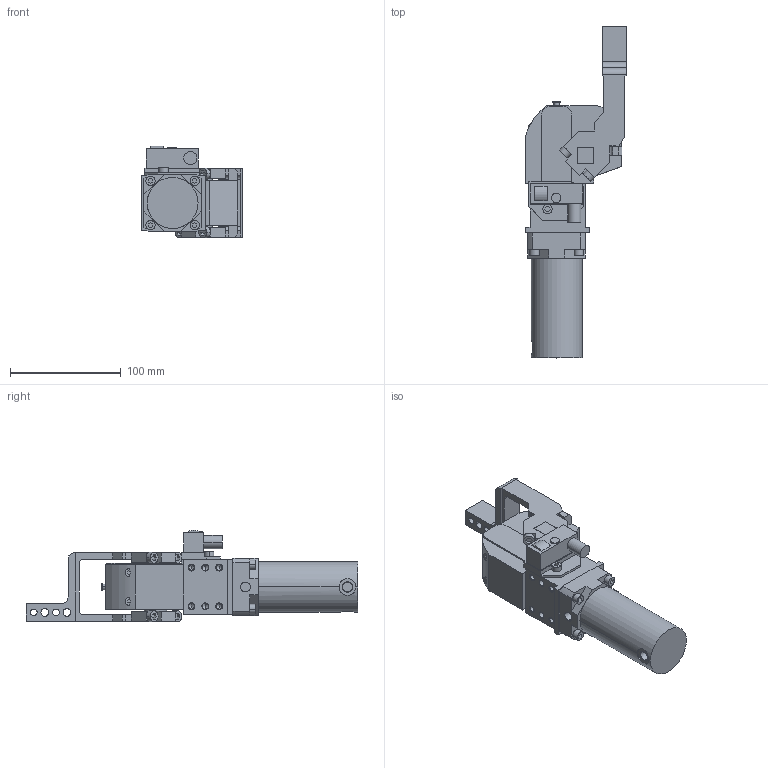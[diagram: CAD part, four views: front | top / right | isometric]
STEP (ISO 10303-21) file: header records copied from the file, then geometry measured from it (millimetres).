
FILE_DESCRIPTION (( 'STEP AP214' ), '1' );
FILE_NAME ('g40.1_gos.STEP', '2014-03-17T09:48:34', ( 'vep' ), ( 'TOSHIBA' ), 'SwSTEP 2.0', 'SolidWorks 2013', '' );
FILE_SCHEMA (( 'AUTOMOTIVE_DESIGN' ));
Length unit declared in the file: millimetre
Products named in the file (5): g40.1_corpo; g40.1_leva_gvd; g40.1_cilindro; blocchetto_p&f_90; g40.1_gos
Assembly tree (4 placements, depth 2):
  g40.1_gos
    g40.1_corpo
    g40.1_cilindro
    blocchetto_p&f_90
    g40.1_leva_gvd
Bounding box: 91 x 300 x 82.8 mm (x, y, z)
Volume: 611610 mm3; surface area: 96501.2 mm2
Topology: 4 solids, 4 shells, 452 faces, 1156 edges, 719 vertices
Faces by surface type: plane 297, cylinder 103, cone 52
Entity records: 14686 total; most frequent: CARTESIAN_POINT 2544, DIRECTION 2324, ORIENTED_EDGE 2264, EDGE_CURVE 1132, VECTOR 834, LINE 834, AXIS2_PLACEMENT_3D 745, VERTEX_POINT 719
